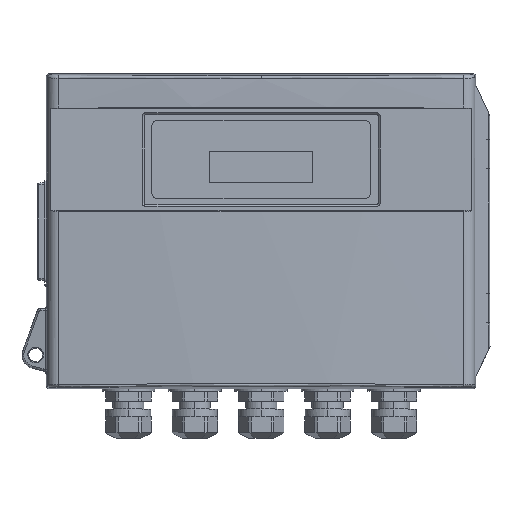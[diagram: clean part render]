
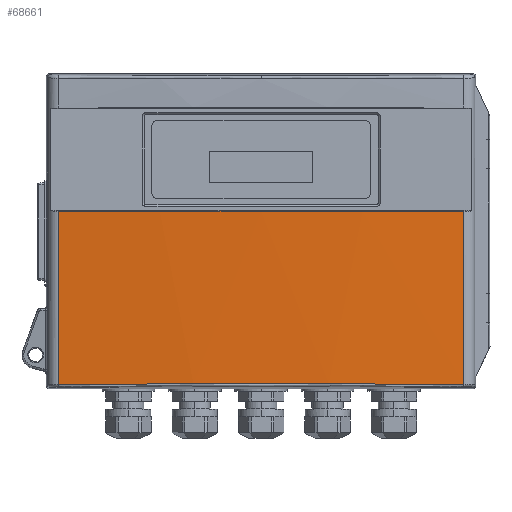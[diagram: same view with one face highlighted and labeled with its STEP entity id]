
A CAD part, top view. The second image highlights one B-rep face of the part: STEP entity #68661.
In plain terms, the highlighted cylindrical face has radius 1490.81 mm (diameter 2981.63 mm), a partial arc.
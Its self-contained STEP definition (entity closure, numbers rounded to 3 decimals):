
#457 = FACE_OUTER_BOUND ( 'NONE', #70270, .T. ) ;
#651 = CARTESIAN_POINT ( 'NONE',  ( -34.669, -78.139, 21.709 ) ) ;
#1444 = VERTEX_POINT ( 'NONE', #86032 ) ;
#3334 = DIRECTION ( 'NONE',  ( 0., -1., 0. ) ) ;
#6170 = DIRECTION ( 'NONE',  ( 0., 0., -1. ) ) ;
#8115 = ORIENTED_EDGE ( 'NONE', *, *, #57143, .T. ) ;
#8305 = EDGE_CURVE ( 'NONE', #71901, #48633, #25750, .T. ) ;
#10248 = VERTEX_POINT ( 'NONE', #50643 ) ;
#17251 = CARTESIAN_POINT ( 'NONE',  ( 0., 10.077, 20.5 ) ) ;
#23513 = CARTESIAN_POINT ( 'NONE',  ( -103.839, 299.007, 16.879 ) ) ;
#25750 =( BOUNDED_CURVE ( )  B_SPLINE_CURVE ( 3, ( #81300, #651, #67481, #53688 ),
 .UNSPECIFIED., .F., .F. ) 
 B_SPLINE_CURVE_WITH_KNOTS ( ( 4, 4 ),
 ( 3.072, 3.211 ),
 .UNSPECIFIED. ) 
 CURVE ( )  GEOMETRIC_REPRESENTATION_ITEM ( )  RATIONAL_B_SPLINE_CURVE ( ( 1., 0.998, 0.998, 1. ) ) 
 REPRESENTATION_ITEM ( '' )  );
#25868 = CARTESIAN_POINT ( 'NONE',  ( 103.839, 299.007, 16.879 ) ) ;
#27968 =( BOUNDED_CURVE ( )  B_SPLINE_CURVE ( 3, ( #58321, #57766, #50390, #17251 ),
 .UNSPECIFIED., .F., .F. ) 
 B_SPLINE_CURVE_WITH_KNOTS ( ( 4, 4 ),
 ( 6.213, 6.283 ),
 .UNSPECIFIED. ) 
 CURVE ( )  GEOMETRIC_REPRESENTATION_ITEM ( )  RATIONAL_B_SPLINE_CURVE ( ( 1., 1., 1., 1. ) ) 
 REPRESENTATION_ITEM ( '' )  );
#28177 =( BOUNDED_CURVE ( )  B_SPLINE_CURVE ( 3, ( #80806, #61145, #47335, #60289 ),
 .UNSPECIFIED., .F., .F. ) 
 B_SPLINE_CURVE_WITH_KNOTS ( ( 4, 4 ),
 ( 0., 0.07 ),
 .UNSPECIFIED. ) 
 CURVE ( )  GEOMETRIC_REPRESENTATION_ITEM ( )  RATIONAL_B_SPLINE_CURVE ( ( 1., 1., 1., 1. ) ) 
 REPRESENTATION_ITEM ( '' )  );
#28572 = EDGE_CURVE ( 'NONE', #48633, #61219, #28870, .T. ) ;
#28870 = LINE ( 'NONE', #25868, #86636 ) ;
#32536 = DIRECTION ( 'NONE',  ( 0., -1., 0. ) ) ;
#34429 = CARTESIAN_POINT ( 'NONE',  ( 103.839, -78.392, 16.879 ) ) ;
#34864 = EDGE_CURVE ( 'NONE', #10248, #71901, #85933, .T. ) ;
#35050 = ORIENTED_EDGE ( 'NONE', *, *, #28572, .T. ) ;
#36227 = CARTESIAN_POINT ( 'NONE',  ( -103.839, -78.392, 16.879 ) ) ;
#39067 = DIRECTION ( 'NONE',  ( 0., 1., 0. ) ) ;
#47335 = CARTESIAN_POINT ( 'NONE',  ( -69.275, 10.14, 19.293 ) ) ;
#48633 = VERTEX_POINT ( 'NONE', #34429 ) ;
#50390 = CARTESIAN_POINT ( 'NONE',  ( 34.648, 10.077, 20.5 ) ) ;
#50643 = CARTESIAN_POINT ( 'NONE',  ( -103.839, 10.267, 16.879 ) ) ;
#53688 = CARTESIAN_POINT ( 'NONE',  ( 103.839, -78.392, 16.879 ) ) ;
#57143 = EDGE_CURVE ( 'NONE', #1444, #10248, #28177, .T. ) ;
#57766 = CARTESIAN_POINT ( 'NONE',  ( 69.275, 10.14, 19.293 ) ) ;
#58321 = CARTESIAN_POINT ( 'NONE',  ( 103.839, 10.267, 16.879 ) ) ;
#60289 = CARTESIAN_POINT ( 'NONE',  ( -103.839, 10.267, 16.879 ) ) ;
#61145 = CARTESIAN_POINT ( 'NONE',  ( -34.648, 10.077, 20.5 ) ) ;
#61219 = VERTEX_POINT ( 'NONE', #81001 ) ;
#61980 = AXIS2_PLACEMENT_3D ( 'NONE', #72449, #32536, #6170 ) ;
#67481 = CARTESIAN_POINT ( 'NONE',  ( 34.669, -78.139, 21.709 ) ) ;
#68623 = ORIENTED_EDGE ( 'NONE', *, *, #75402, .T. ) ;
#68661 = ADVANCED_FACE ( 'NONE', ( #457 ), #86486, .T. ) ;
#70270 = EDGE_LOOP ( 'NONE', ( #35050, #68623, #8115, #79565, #84525 ) ) ;
#71206 = VECTOR ( 'NONE', #3334, 1000. ) ;
#71901 = VERTEX_POINT ( 'NONE', #36227 ) ;
#72449 = CARTESIAN_POINT ( 'NONE',  ( 0., 299.007, -1470.313 ) ) ;
#75402 = EDGE_CURVE ( 'NONE', #61219, #1444, #27968, .T. ) ;
#79565 = ORIENTED_EDGE ( 'NONE', *, *, #34864, .T. ) ;
#80806 = CARTESIAN_POINT ( 'NONE',  ( 0., 10.077, 20.5 ) ) ;
#81001 = CARTESIAN_POINT ( 'NONE',  ( 103.839, 10.267, 16.879 ) ) ;
#81300 = CARTESIAN_POINT ( 'NONE',  ( -103.839, -78.392, 16.879 ) ) ;
#84525 = ORIENTED_EDGE ( 'NONE', *, *, #8305, .T. ) ;
#85933 = LINE ( 'NONE', #23513, #71206 ) ;
#86032 = CARTESIAN_POINT ( 'NONE',  ( 0., 10.077, 20.5 ) ) ;
#86486 = CYLINDRICAL_SURFACE ( 'NONE', #61980, 1490.813 ) ;
#86636 = VECTOR ( 'NONE', #39067, 1000. ) ;
